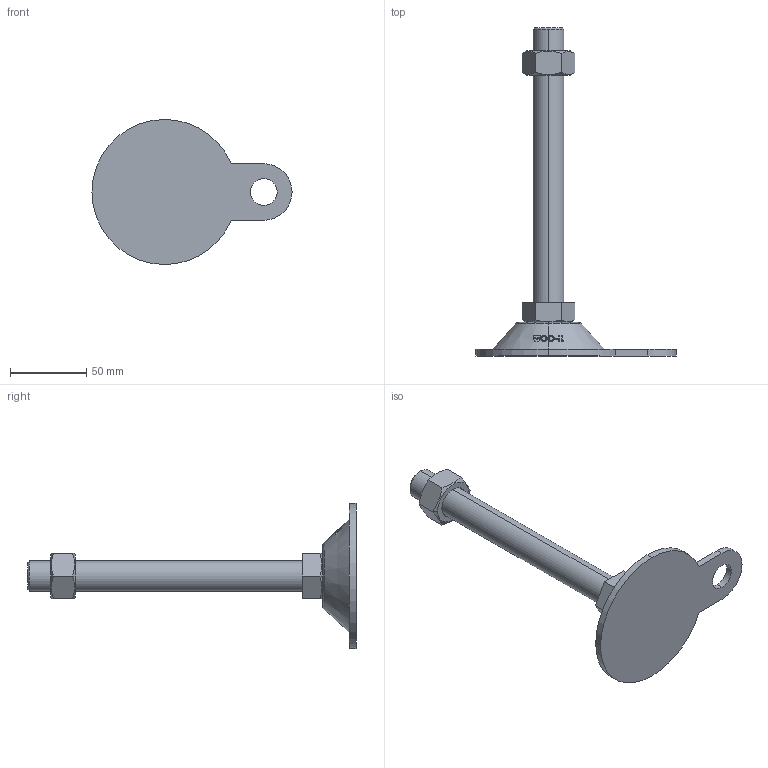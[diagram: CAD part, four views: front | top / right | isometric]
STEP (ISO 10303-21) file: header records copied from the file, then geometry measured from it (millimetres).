
FILE_DESCRIPTION (( 'STEP AP214' ), '1' );
FILE_NAME ('ABL95-M20-180.step', '2021-02-05T04:21:41', ( '' ), ( '' ), 'SwSTEP 2.0', 'SolidWorks 2019', '' );
FILE_SCHEMA (( 'AUTOMOTIVE_DESIGN' ));
Length unit declared in the file: millimetre
Products named in the file (2): ABL95-M20-180
Bounding box: 131 x 215 x 95 mm (x, y, z)
Volume: 157567.3 mm3; surface area: 35756.4 mm2
Topology: 2 solids, 2 shells, 128 faces, 328 edges, 214 vertices
Faces by surface type: plane 48, cylinder 38, cone 22, bspline 18, torus 2
Entity records: 5462 total; most frequent: CARTESIAN_POINT 2562, ORIENTED_EDGE 656, DIRECTION 474, EDGE_CURVE 328, VERTEX_POINT 214, AXIS2_PLACEMENT_3D 176, EDGE_LOOP 142, B_SPLINE_CURVE_WITH_KNOTS 142
